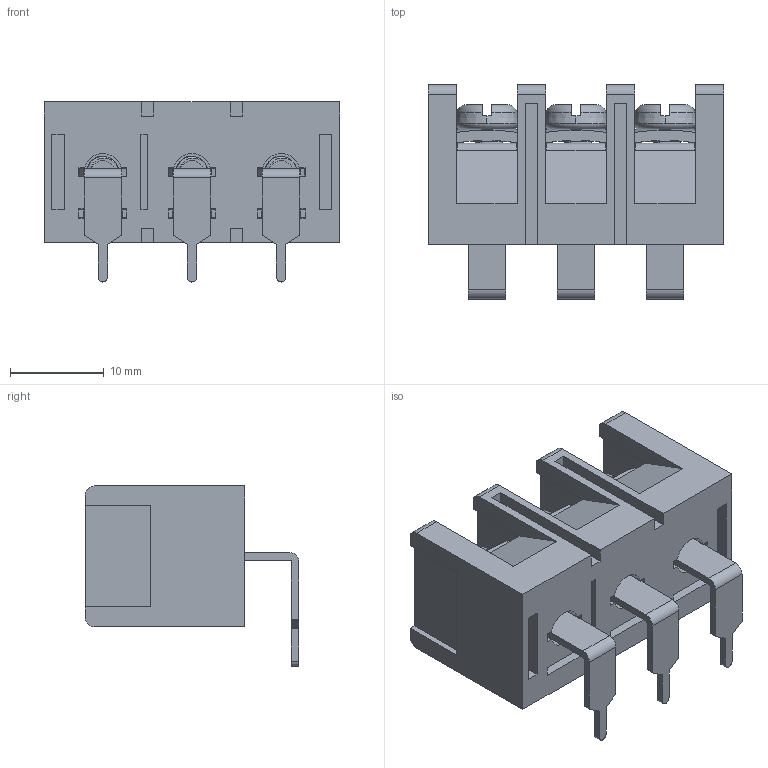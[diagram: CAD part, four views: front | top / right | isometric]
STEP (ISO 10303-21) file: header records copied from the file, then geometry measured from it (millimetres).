
FILE_DESCRIPTION((''),'2;1');
FILE_NAME('3PIN','2021-05-08T',('hanke'),(''),'CREO PARAMETRIC BY PTC INC, 2016260','CREO PARAMETRIC BY PTC INC, 2016260','');
FILE_SCHEMA(('CONFIG_CONTROL_DESIGN'));
Products named in the file (1): 3PIN
Bounding box: 31.5 x 22.8 x 19.2 mm (x, y, z)
Volume: 4646.6 mm3; surface area: 6872.7 mm2
Topology: 1 solids, 1 shells, 1094 faces, 3222 edges, 2100 vertices
Faces by surface type: plane 693, cylinder 275, bspline 84, cone 24, torus 18
Entity records: 49950 total; most frequent: CARTESIAN_POINT 21845, ORIENTED_EDGE 6432, DIRECTION 5150, EDGE_CURVE 3216, VERTEX_POINT 2100, VECTOR 1988, LINE 1988, AXIS2_PLACEMENT_3D 1581
